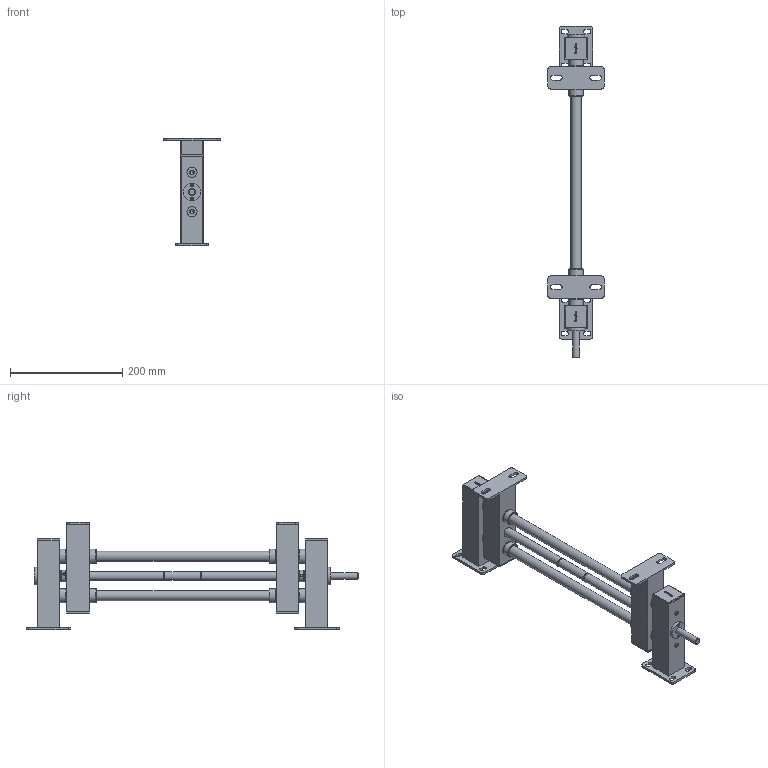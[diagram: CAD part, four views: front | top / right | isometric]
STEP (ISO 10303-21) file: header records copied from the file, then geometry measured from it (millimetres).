
FILE_DESCRIPTION((''),'2;1');
FILE_NAME('C:\Vault Klient\Projekt\Step\100-1400_0-250mm.stp','2009-12-11T13:15:47',('Mathias'),(''),'Autodesk Inventor 2010','Autodesk Inventor 2010','');
FILE_SCHEMA(('CONFIG_CONTROL_DESIGN'));
Length unit declared in the file: millimetre
Products named in the file (1): 100-1400_0-250mm
Bounding box: 100 x 591.5 x 192 mm (x, y, z)
Volume: 691305.8 mm3; surface area: 355944.2 mm2
Topology: 1 solids, 1 shells, 913 faces, 2286 edges, 1491 vertices
Faces by surface type: plane 470, bspline 258, cylinder 143, cone 26, sphere 16
Full cylindrical faces by diameter (mm): 5.1 x16, 12 x4, 12.3 x2, 16 x3, 18 x10, 19 x4, 20 x10, 23.9 x8, 25 x12, 31 x2
Entity records: 29230 total; most frequent: CARTESIAN_POINT 8774, ORIENTED_EDGE 4226, DIRECTION 3318, EDGE_CURVE 2113, VERTEX_POINT 1457, VECTOR 1280, LINE 1280, EDGE_LOOP 1232
